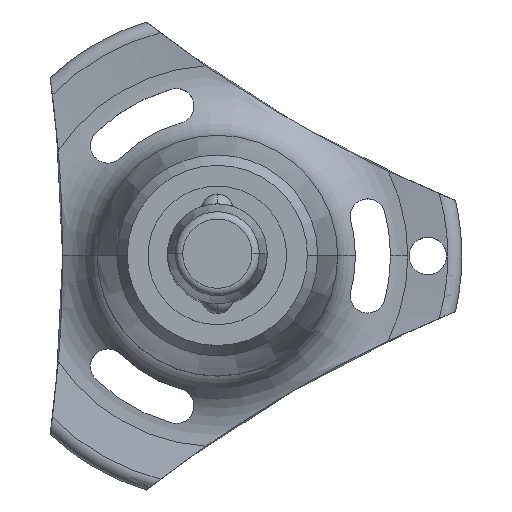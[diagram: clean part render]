
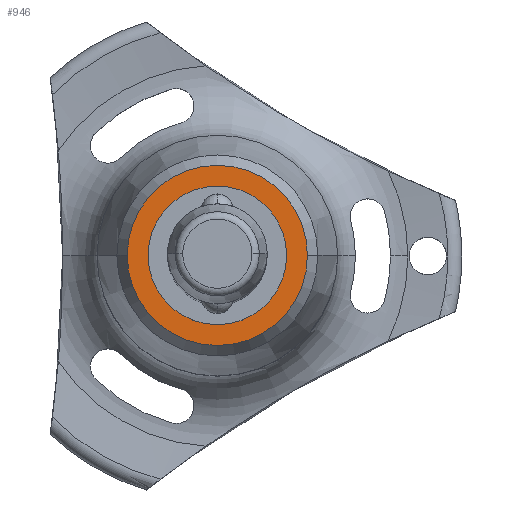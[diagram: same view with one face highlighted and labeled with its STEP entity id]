
A CAD part, top view. The second image highlights one B-rep face of the part: STEP entity #946.
In plain terms, the highlighted planar face has unit normal (0, 0, 1).
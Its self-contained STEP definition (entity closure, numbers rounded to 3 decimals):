
#154 = EDGE_CURVE ( 'NONE', #1407, #1211, #1142, .T. ) ;
#261 = CARTESIAN_POINT ( 'NONE',  ( -7.22, 0., -70.6 ) ) ;
#265 = DIRECTION ( 'NONE',  ( -1., 0., 0. ) ) ;
#395 = CIRCLE ( 'NONE', #1067, 5.554 ) ;
#577 = DIRECTION ( 'NONE',  ( 0., 0., 1. ) ) ;
#589 = ORIENTED_EDGE ( 'NONE', *, *, #154, .F. ) ;
#666 = ORIENTED_EDGE ( 'NONE', *, *, #1139, .T. ) ;
#672 = CARTESIAN_POINT ( 'NONE',  ( 0., 0., -70.6 ) ) ;
#757 = DIRECTION ( 'NONE',  ( -1., 0., 0. ) ) ;
#903 = DIRECTION ( 'NONE',  ( 0., 0., -1. ) ) ;
#946 = ADVANCED_FACE ( 'NONE', ( #2088, #2060 ), #1440, .T. ) ;
#1067 = AXIS2_PLACEMENT_3D ( 'NONE', #672, #2569, #2139 ) ;
#1123 = EDGE_LOOP ( 'NONE', ( #2385, #589 ) ) ;
#1124 = CARTESIAN_POINT ( 'NONE',  ( 0., 0., -70.6 ) ) ;
#1139 = EDGE_CURVE ( 'NONE', #2267, #2478, #395, .T. ) ;
#1142 = CIRCLE ( 'NONE', #2023, 7.22 ) ;
#1197 = AXIS2_PLACEMENT_3D ( 'NONE', #1124, #903, #265 ) ;
#1211 = VERTEX_POINT ( 'NONE', #261 ) ;
#1367 = AXIS2_PLACEMENT_3D ( 'NONE', #2099, #577, #1428 ) ;
#1369 = CARTESIAN_POINT ( 'NONE',  ( 0., 0., -70.6 ) ) ;
#1407 = VERTEX_POINT ( 'NONE', #2278 ) ;
#1428 = DIRECTION ( 'NONE',  ( 1., 0., 0. ) ) ;
#1440 = PLANE ( 'NONE',  #1367 ) ;
#1477 = EDGE_CURVE ( 'NONE', #1211, #1407, #1642, .T. ) ;
#1554 = ORIENTED_EDGE ( 'NONE', *, *, #2593, .T. ) ;
#1625 = CARTESIAN_POINT ( 'NONE',  ( 5.554, 0., -70.6 ) ) ;
#1629 = DIRECTION ( 'NONE',  ( 0., 0., -1. ) ) ;
#1642 = CIRCLE ( 'NONE', #2602, 7.22 ) ;
#1859 = CARTESIAN_POINT ( 'NONE',  ( 0., 0., -70.6 ) ) ;
#1882 = CARTESIAN_POINT ( 'NONE',  ( -5.554, 0., -70.6 ) ) ;
#2023 = AXIS2_PLACEMENT_3D ( 'NONE', #1369, #2633, #757 ) ;
#2060 = FACE_OUTER_BOUND ( 'NONE', #1123, .T. ) ;
#2088 = FACE_BOUND ( 'NONE', #2450, .T. ) ;
#2099 = CARTESIAN_POINT ( 'NONE',  ( 0., 5.554, -70.6 ) ) ;
#2139 = DIRECTION ( 'NONE',  ( -1., 0., 0. ) ) ;
#2267 = VERTEX_POINT ( 'NONE', #1882 ) ;
#2278 = CARTESIAN_POINT ( 'NONE',  ( 7.22, 0., -70.6 ) ) ;
#2385 = ORIENTED_EDGE ( 'NONE', *, *, #1477, .F. ) ;
#2437 = DIRECTION ( 'NONE',  ( -1., 0., 0. ) ) ;
#2450 = EDGE_LOOP ( 'NONE', ( #666, #1554 ) ) ;
#2478 = VERTEX_POINT ( 'NONE', #1625 ) ;
#2556 = CIRCLE ( 'NONE', #1197, 5.554 ) ;
#2569 = DIRECTION ( 'NONE',  ( 0., 0., -1. ) ) ;
#2593 = EDGE_CURVE ( 'NONE', #2478, #2267, #2556, .T. ) ;
#2602 = AXIS2_PLACEMENT_3D ( 'NONE', #1859, #1629, #2437 ) ;
#2633 = DIRECTION ( 'NONE',  ( 0., 0., -1. ) ) ;
